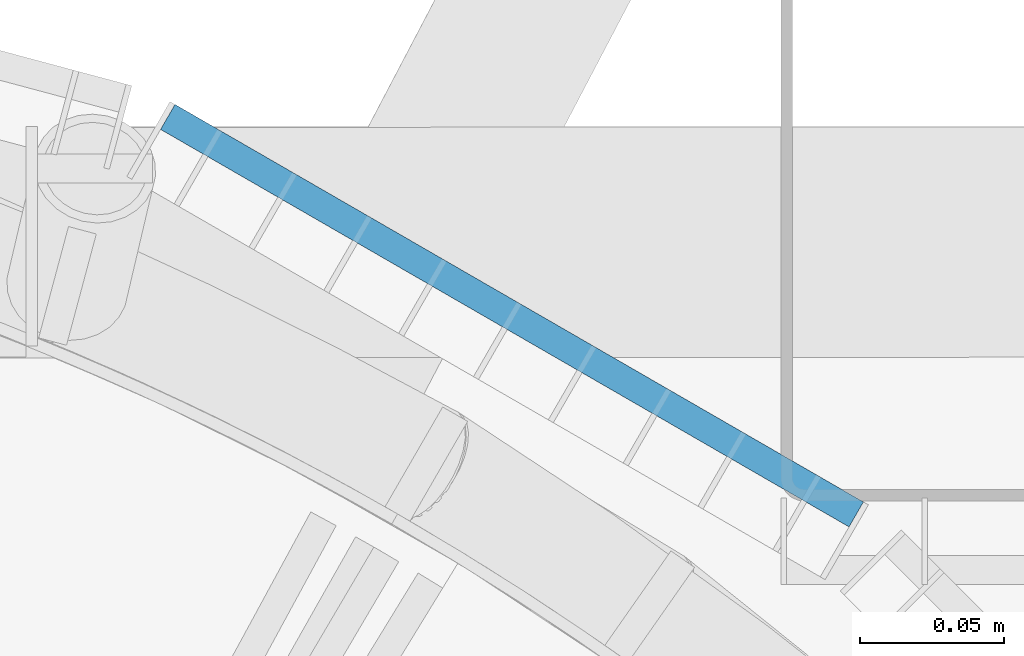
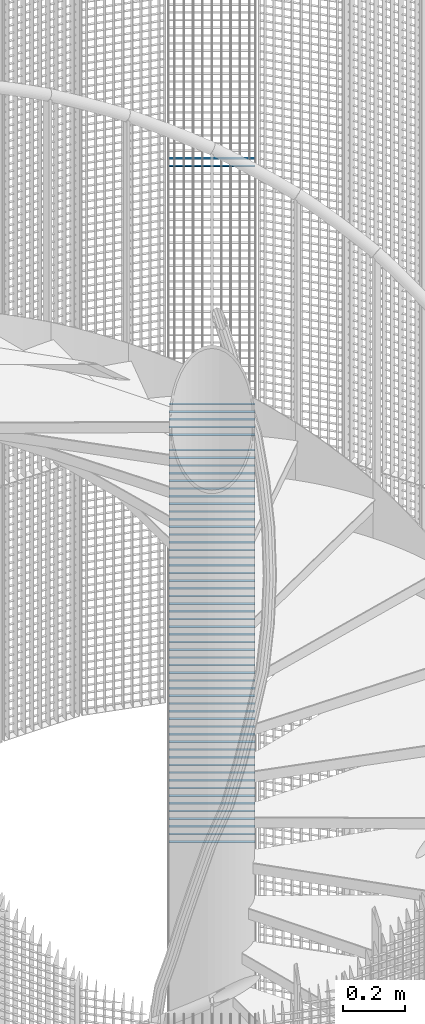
# One storey, part 333 of 1183: 59 beams, 2 elements without a shape of their own.
"""IFC2X3 building model written with IfcOpenShell, lengths in millimetres."""

from ifc_helpers import new_model, si_unit, frame, origin_with_axes, origin_2d_with_axis, place, context, subcontext, project, spatial, rectangle, extrude, material, type_object, element, aggregate, save


model = new_model("IFC2X3")

# Units and contexts
model_context = context("Model", 3, precision=1e-05, world=origin_with_axes())
body_context = subcontext(model_context, "Body", "Model", "MODEL_VIEW")
ifc_project = project(units=[si_unit("LENGTHUNIT", "METRE", prefix="MILLI"), si_unit("AREAUNIT", "SQUARE_METRE"), si_unit("VOLUMEUNIT", "CUBIC_METRE"), si_unit("MASSUNIT", "GRAM", prefix="KILO"), si_unit("TIMEUNIT", "SECOND"), si_unit("PLANEANGLEUNIT", "RADIAN"), si_unit("SOLIDANGLEUNIT", "STERADIAN"), si_unit("THERMODYNAMICTEMPERATUREUNIT", "DEGREE_CELSIUS"), si_unit("LUMINOUSINTENSITYUNIT", "LUMEN")], contexts=[model_context])

# Site, building, storey
site_placement = place(None, origin_with_axes())
site = spatial("IfcSite", under=ifc_project, at=site_placement, Name="Undefined", CompositionType="ELEMENT")
building_placement = place(site_placement, origin_with_axes())
building = spatial("IfcBuilding", under=site, at=building_placement, Name="Undefined", CompositionType="ELEMENT")
storey_placement = place(building_placement, origin_with_axes())
storey = spatial("IfcBuildingStorey", under=building, at=storey_placement, Name="Undefined", CompositionType="ELEMENT", Elevation=0.0)

# Assembly, beams
assembly_1_placement = place(storey_placement, origin_with_axes())
assembly_1 = element("IfcElementAssembly", 1, at=assembly_1_placement, inside=storey, Name="BORDURE", AssemblyPlace="NOTDEFINED", PredefinedType="NOTDEFINED")
ifc_material = material(Name="STEEL/S235JR")
beam_type = type_object("IfcBeamType", Name="PL2*10", PredefinedType="NOTDEFINED")
beam_1_placement = place(assembly_1_placement, frame((676.24804453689, 895.30396491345, 3150.0), z_axis=(0.49999999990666, 0.866025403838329, 0.0), x_axis=(-0.866025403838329, 0.499999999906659, 0.0)))
beam_1 = element("IfcBeam", 2, at=beam_1_placement, type_object=beam_type, material=ifc_material, Name="ENTRETOISE", context=body_context, shape_type="SweptSolid", body=[
    extrude(rectangle(XDim=2.0, YDim=10.0, at=origin_2d_with_axis()), frame((275.999999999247, 9.09494701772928e-13, 1.53210777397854e-14), z_axis=(-1.0, 0.0, 0.0), x_axis=(0.0, -1.0, 0.0)), (0.0, 0.0, 1.0), 276.0),
])
beam_2_placement = place(assembly_1_placement, frame((676.24804453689, 895.30396491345, 3120.0), z_axis=(0.49999999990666, 0.866025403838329, 0.0), x_axis=(-0.866025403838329, 0.499999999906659, 0.0)))
beam_2 = element("IfcBeam", 3, at=beam_2_placement, type_object=beam_type, material=ifc_material, Name="ENTRETOISE", context=body_context, shape_type="SweptSolid", body=[
    extrude(rectangle(XDim=2.0, YDim=10.0, at=origin_2d_with_axis()), frame((275.999999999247, 9.09494701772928e-13, 1.53210777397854e-14), z_axis=(-1.0, 0.0, 0.0), x_axis=(0.0, -1.0, 0.0)), (0.0, 0.0, 1.0), 276.0),
])
beam_3_placement = place(assembly_1_placement, frame((676.248044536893, 895.303964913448, 4080.0), z_axis=(0.49999999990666, 0.866025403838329, 0.0), x_axis=(-0.866025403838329, 0.499999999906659, 0.0)))
beam_3 = element("IfcBeam", 4, at=beam_3_placement, type_object=beam_type, material=ifc_material, Name="ENTRETOISE", context=body_context, shape_type="SweptSolid", body=[
    extrude(rectangle(XDim=2.0, YDim=10.0, at=origin_2d_with_axis()), frame((275.999999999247, 9.09494701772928e-13, 1.53210777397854e-14), z_axis=(-1.0, 0.0, 0.0), x_axis=(0.0, -1.0, 0.0)), (0.0, 0.0, 1.0), 276.0),
])
beam_4_placement = place(assembly_1_placement, frame((676.24804453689, 895.30396491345, 3090.0), z_axis=(0.49999999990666, 0.866025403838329, 0.0), x_axis=(-0.866025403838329, 0.499999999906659, 0.0)))
beam_4 = element("IfcBeam", 5, at=beam_4_placement, type_object=beam_type, material=ifc_material, Name="ENTRETOISE", context=body_context, shape_type="SweptSolid", body=[
    extrude(rectangle(XDim=2.0, YDim=10.0, at=origin_2d_with_axis()), frame((275.999999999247, 9.09494701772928e-13, 1.53210777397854e-14), z_axis=(-1.0, 0.0, 0.0), x_axis=(0.0, -1.0, 0.0)), (0.0, 0.0, 1.0), 276.0),
])
beam_5_placement = place(assembly_1_placement, frame((676.24804453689, 895.30396491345, 3060.0), z_axis=(0.49999999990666, 0.866025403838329, 0.0), x_axis=(-0.866025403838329, 0.499999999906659, 0.0)))
beam_5 = element("IfcBeam", 6, at=beam_5_placement, type_object=beam_type, material=ifc_material, Name="ENTRETOISE", context=body_context, shape_type="SweptSolid", body=[
    extrude(rectangle(XDim=2.0, YDim=10.0, at=origin_2d_with_axis()), frame((275.999999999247, 9.09494701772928e-13, 1.53210777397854e-14), z_axis=(-1.0, 0.0, 0.0), x_axis=(0.0, -1.0, 0.0)), (0.0, 0.0, 1.0), 276.0),
])
beam_6_placement = place(assembly_1_placement, frame((676.248044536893, 895.303964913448, 4110.0), z_axis=(0.49999999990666, 0.866025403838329, 0.0), x_axis=(-0.866025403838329, 0.499999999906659, 0.0)))
beam_6 = element("IfcBeam", 7, at=beam_6_placement, type_object=beam_type, material=ifc_material, Name="ENTRETOISE", context=body_context, shape_type="SweptSolid", body=[
    extrude(rectangle(XDim=2.0, YDim=10.0, at=origin_2d_with_axis()), frame((275.999999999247, 9.09494701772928e-13, 1.53210777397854e-14), z_axis=(-1.0, 0.0, 0.0), x_axis=(0.0, -1.0, 0.0)), (0.0, 0.0, 1.0), 276.0),
])
beam_7_placement = place(assembly_1_placement, frame((676.248044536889, 895.30396491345, 3030.0), z_axis=(0.49999999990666, 0.866025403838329, 0.0), x_axis=(-0.866025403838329, 0.499999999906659, 0.0)))
beam_7 = element("IfcBeam", 8, at=beam_7_placement, type_object=beam_type, material=ifc_material, Name="ENTRETOISE", context=body_context, shape_type="SweptSolid", body=[
    extrude(rectangle(XDim=2.0, YDim=10.0, at=origin_2d_with_axis()), frame((275.999999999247, 9.09494701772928e-13, 1.53210777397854e-14), z_axis=(-1.0, 0.0, 0.0), x_axis=(0.0, -1.0, 0.0)), (0.0, 0.0, 1.0), 276.0),
])
aggregate(assembly_1, [beam_1, beam_2, beam_3, beam_4, beam_5, beam_6, beam_7])

assembly_2_placement = place(storey_placement, origin_with_axes())
assembly_2 = element("IfcElementAssembly", 9, at=assembly_2_placement, inside=storey, Name="BORDURE", AssemblyPlace="NOTDEFINED", PredefinedType="NOTDEFINED")
beam_8_placement = place(assembly_2_placement, frame((676.248044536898, 895.303964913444, 2970.0), z_axis=(0.49999999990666, 0.866025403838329, 0.0), x_axis=(-0.866025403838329, 0.499999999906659, 0.0)))
beam_8 = element("IfcBeam", 10, at=beam_8_placement, type_object=beam_type, material=ifc_material, Name="ENTRETOISE", context=body_context, shape_type="SweptSolid", body=[
    extrude(rectangle(XDim=2.0, YDim=10.0, at=origin_2d_with_axis()), frame((275.999999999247, 9.09494701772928e-13, 1.53210777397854e-14), z_axis=(-1.0, 0.0, 0.0), x_axis=(0.0, -1.0, 0.0)), (0.0, 0.0, 1.0), 276.0),
])
beam_9_placement = place(assembly_2_placement, frame((676.248044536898, 895.303964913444, 2940.0), z_axis=(0.49999999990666, 0.866025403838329, 0.0), x_axis=(-0.866025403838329, 0.499999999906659, 0.0)))
beam_9 = element("IfcBeam", 11, at=beam_9_placement, type_object=beam_type, material=ifc_material, Name="ENTRETOISE", context=body_context, shape_type="SweptSolid", body=[
    extrude(rectangle(XDim=2.0, YDim=10.0, at=origin_2d_with_axis()), frame((275.999999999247, 9.09494701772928e-13, 1.53210777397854e-14), z_axis=(-1.0, 0.0, 0.0), x_axis=(0.0, -1.0, 0.0)), (0.0, 0.0, 1.0), 276.0),
])
beam_10_placement = place(assembly_2_placement, frame((676.248044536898, 895.303964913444, 2910.0), z_axis=(0.49999999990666, 0.866025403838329, 0.0), x_axis=(-0.866025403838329, 0.499999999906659, 0.0)))
beam_10 = element("IfcBeam", 12, at=beam_10_placement, type_object=beam_type, material=ifc_material, Name="ENTRETOISE", context=body_context, shape_type="SweptSolid", body=[
    extrude(rectangle(XDim=2.0, YDim=10.0, at=origin_2d_with_axis()), frame((275.999999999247, 9.09494701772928e-13, 1.53210777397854e-14), z_axis=(-1.0, 0.0, 0.0), x_axis=(0.0, -1.0, 0.0)), (0.0, 0.0, 1.0), 276.0),
])
beam_11_placement = place(assembly_2_placement, frame((676.248044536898, 895.303964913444, 2880.0), z_axis=(0.49999999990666, 0.866025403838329, 0.0), x_axis=(-0.866025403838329, 0.499999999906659, 0.0)))
beam_11 = element("IfcBeam", 13, at=beam_11_placement, type_object=beam_type, material=ifc_material, Name="ENTRETOISE", context=body_context, shape_type="SweptSolid", body=[
    extrude(rectangle(XDim=2.0, YDim=10.0, at=origin_2d_with_axis()), frame((275.999999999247, 9.09494701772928e-13, 1.53210777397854e-14), z_axis=(-1.0, 0.0, 0.0), x_axis=(0.0, -1.0, 0.0)), (0.0, 0.0, 1.0), 276.0),
])
beam_12_placement = place(assembly_2_placement, frame((676.248044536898, 895.303964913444, 2850.0), z_axis=(0.49999999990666, 0.866025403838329, 0.0), x_axis=(-0.866025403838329, 0.499999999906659, 0.0)))
beam_12 = element("IfcBeam", 14, at=beam_12_placement, type_object=beam_type, material=ifc_material, Name="ENTRETOISE", context=body_context, shape_type="SweptSolid", body=[
    extrude(rectangle(XDim=2.0, YDim=10.0, at=origin_2d_with_axis()), frame((275.999999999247, 9.09494701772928e-13, 1.53210777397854e-14), z_axis=(-1.0, 0.0, 0.0), x_axis=(0.0, -1.0, 0.0)), (0.0, 0.0, 1.0), 276.0),
])
beam_13_placement = place(assembly_2_placement, frame((676.248044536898, 895.303964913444, 2820.0), z_axis=(0.49999999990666, 0.866025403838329, 0.0), x_axis=(-0.866025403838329, 0.499999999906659, 0.0)))
beam_13 = element("IfcBeam", 15, at=beam_13_placement, type_object=beam_type, material=ifc_material, Name="ENTRETOISE", context=body_context, shape_type="SweptSolid", body=[
    extrude(rectangle(XDim=2.0, YDim=10.0, at=origin_2d_with_axis()), frame((275.999999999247, 9.09494701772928e-13, 1.53210777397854e-14), z_axis=(-1.0, 0.0, 0.0), x_axis=(0.0, -1.0, 0.0)), (0.0, 0.0, 1.0), 276.0),
])
beam_14_placement = place(assembly_2_placement, frame((676.248044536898, 895.303964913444, 2790.0), z_axis=(0.49999999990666, 0.866025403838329, 0.0), x_axis=(-0.866025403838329, 0.499999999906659, 0.0)))
beam_14 = element("IfcBeam", 16, at=beam_14_placement, type_object=beam_type, material=ifc_material, Name="ENTRETOISE", context=body_context, shape_type="SweptSolid", body=[
    extrude(rectangle(XDim=2.0, YDim=10.0, at=origin_2d_with_axis()), frame((275.999999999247, 9.09494701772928e-13, 1.53210777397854e-14), z_axis=(-1.0, 0.0, 0.0), x_axis=(0.0, -1.0, 0.0)), (0.0, 0.0, 1.0), 276.0),
])
beam_15_placement = place(assembly_2_placement, frame((676.248044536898, 895.303964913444, 2760.0), z_axis=(0.49999999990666, 0.866025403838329, 0.0), x_axis=(-0.866025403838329, 0.499999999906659, 0.0)))
beam_15 = element("IfcBeam", 17, at=beam_15_placement, type_object=beam_type, material=ifc_material, Name="ENTRETOISE", context=body_context, shape_type="SweptSolid", body=[
    extrude(rectangle(XDim=2.0, YDim=10.0, at=origin_2d_with_axis()), frame((275.999999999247, 9.09494701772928e-13, 1.53210777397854e-14), z_axis=(-1.0, 0.0, 0.0), x_axis=(0.0, -1.0, 0.0)), (0.0, 0.0, 1.0), 276.0),
])
beam_16_placement = place(assembly_2_placement, frame((676.248044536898, 895.303964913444, 2730.0), z_axis=(0.49999999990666, 0.866025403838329, 0.0), x_axis=(-0.866025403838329, 0.499999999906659, 0.0)))
beam_16 = element("IfcBeam", 18, at=beam_16_placement, type_object=beam_type, material=ifc_material, Name="ENTRETOISE", context=body_context, shape_type="SweptSolid", body=[
    extrude(rectangle(XDim=2.0, YDim=10.0, at=origin_2d_with_axis()), frame((275.999999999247, 9.09494701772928e-13, 1.53210777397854e-14), z_axis=(-1.0, 0.0, 0.0), x_axis=(0.0, -1.0, 0.0)), (0.0, 0.0, 1.0), 276.0),
])
beam_17_placement = place(assembly_2_placement, frame((676.248044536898, 895.303964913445, 2700.0), z_axis=(0.49999999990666, 0.866025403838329, 0.0), x_axis=(-0.866025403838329, 0.499999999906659, 0.0)))
beam_17 = element("IfcBeam", 19, at=beam_17_placement, type_object=beam_type, material=ifc_material, Name="ENTRETOISE", context=body_context, shape_type="SweptSolid", body=[
    extrude(rectangle(XDim=2.0, YDim=10.0, at=origin_2d_with_axis()), frame((275.999999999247, 9.09494701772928e-13, 1.53210777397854e-14), z_axis=(-1.0, 0.0, 0.0), x_axis=(0.0, -1.0, 0.0)), (0.0, 0.0, 1.0), 276.0),
])
beam_18_placement = place(assembly_2_placement, frame((676.248044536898, 895.303964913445, 2670.0), z_axis=(0.49999999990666, 0.866025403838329, 0.0), x_axis=(-0.866025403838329, 0.499999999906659, 0.0)))
beam_18 = element("IfcBeam", 20, at=beam_18_placement, type_object=beam_type, material=ifc_material, Name="ENTRETOISE", context=body_context, shape_type="SweptSolid", body=[
    extrude(rectangle(XDim=2.0, YDim=10.0, at=origin_2d_with_axis()), frame((275.999999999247, 9.09494701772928e-13, 1.53210777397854e-14), z_axis=(-1.0, 0.0, 0.0), x_axis=(0.0, -1.0, 0.0)), (0.0, 0.0, 1.0), 276.0),
])
beam_19_placement = place(assembly_2_placement, frame((676.248044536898, 895.303964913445, 2640.0), z_axis=(0.49999999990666, 0.866025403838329, 0.0), x_axis=(-0.866025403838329, 0.499999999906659, 0.0)))
beam_19 = element("IfcBeam", 21, at=beam_19_placement, type_object=beam_type, material=ifc_material, Name="ENTRETOISE", context=body_context, shape_type="SweptSolid", body=[
    extrude(rectangle(XDim=2.0, YDim=10.0, at=origin_2d_with_axis()), frame((275.999999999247, 9.09494701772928e-13, 1.53210777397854e-14), z_axis=(-1.0, 0.0, 0.0), x_axis=(0.0, -1.0, 0.0)), (0.0, 0.0, 1.0), 276.0),
])
beam_20_placement = place(assembly_2_placement, frame((676.248044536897, 895.303964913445, 2610.0), z_axis=(0.49999999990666, 0.866025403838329, 0.0), x_axis=(-0.866025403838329, 0.499999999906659, 0.0)))
beam_20 = element("IfcBeam", 22, at=beam_20_placement, type_object=beam_type, material=ifc_material, Name="ENTRETOISE", context=body_context, shape_type="SweptSolid", body=[
    extrude(rectangle(XDim=2.0, YDim=10.0, at=origin_2d_with_axis()), frame((275.999999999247, 9.09494701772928e-13, 1.53210777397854e-14), z_axis=(-1.0, 0.0, 0.0), x_axis=(0.0, -1.0, 0.0)), (0.0, 0.0, 1.0), 276.0),
])
beam_21_placement = place(assembly_2_placement, frame((676.248044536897, 895.303964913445, 2580.0), z_axis=(0.49999999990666, 0.866025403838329, 0.0), x_axis=(-0.866025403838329, 0.499999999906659, 0.0)))
beam_21 = element("IfcBeam", 23, at=beam_21_placement, type_object=beam_type, material=ifc_material, Name="ENTRETOISE", context=body_context, shape_type="SweptSolid", body=[
    extrude(rectangle(XDim=2.0, YDim=10.0, at=origin_2d_with_axis()), frame((275.999999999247, 9.09494701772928e-13, 1.53210777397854e-14), z_axis=(-1.0, 0.0, 0.0), x_axis=(0.0, -1.0, 0.0)), (0.0, 0.0, 1.0), 276.0),
])
beam_22_placement = place(assembly_2_placement, frame((676.248044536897, 895.303964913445, 2550.0), z_axis=(0.49999999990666, 0.866025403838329, 0.0), x_axis=(-0.866025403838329, 0.499999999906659, 0.0)))
beam_22 = element("IfcBeam", 24, at=beam_22_placement, type_object=beam_type, material=ifc_material, Name="ENTRETOISE", context=body_context, shape_type="SweptSolid", body=[
    extrude(rectangle(XDim=2.0, YDim=10.0, at=origin_2d_with_axis()), frame((275.999999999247, 9.09494701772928e-13, 1.53210777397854e-14), z_axis=(-1.0, 0.0, 0.0), x_axis=(0.0, -1.0, 0.0)), (0.0, 0.0, 1.0), 276.0),
])
beam_23_placement = place(assembly_2_placement, frame((676.248044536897, 895.303964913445, 2520.0), z_axis=(0.49999999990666, 0.866025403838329, 0.0), x_axis=(-0.866025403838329, 0.499999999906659, 0.0)))
beam_23 = element("IfcBeam", 25, at=beam_23_placement, type_object=beam_type, material=ifc_material, Name="ENTRETOISE", context=body_context, shape_type="SweptSolid", body=[
    extrude(rectangle(XDim=2.0, YDim=10.0, at=origin_2d_with_axis()), frame((275.999999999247, 9.09494701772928e-13, 1.53210777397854e-14), z_axis=(-1.0, 0.0, 0.0), x_axis=(0.0, -1.0, 0.0)), (0.0, 0.0, 1.0), 276.0),
])
beam_24_placement = place(assembly_2_placement, frame((676.248044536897, 895.303964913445, 2490.0), z_axis=(0.49999999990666, 0.866025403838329, 0.0), x_axis=(-0.866025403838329, 0.499999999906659, 0.0)))
beam_24 = element("IfcBeam", 26, at=beam_24_placement, type_object=beam_type, material=ifc_material, Name="ENTRETOISE", context=body_context, shape_type="SweptSolid", body=[
    extrude(rectangle(XDim=2.0, YDim=10.0, at=origin_2d_with_axis()), frame((275.999999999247, 9.09494701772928e-13, 1.53210777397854e-14), z_axis=(-1.0, 0.0, 0.0), x_axis=(0.0, -1.0, 0.0)), (0.0, 0.0, 1.0), 276.0),
])
beam_25_placement = place(assembly_2_placement, frame((676.248044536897, 895.303964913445, 2460.0), z_axis=(0.49999999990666, 0.866025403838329, 0.0), x_axis=(-0.866025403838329, 0.499999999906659, 0.0)))
beam_25 = element("IfcBeam", 27, at=beam_25_placement, type_object=beam_type, material=ifc_material, Name="ENTRETOISE", context=body_context, shape_type="SweptSolid", body=[
    extrude(rectangle(XDim=2.0, YDim=10.0, at=origin_2d_with_axis()), frame((275.999999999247, 9.09494701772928e-13, 1.53210777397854e-14), z_axis=(-1.0, 0.0, 0.0), x_axis=(0.0, -1.0, 0.0)), (0.0, 0.0, 1.0), 276.0),
])
beam_26_placement = place(assembly_2_placement, frame((676.248044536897, 895.303964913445, 2430.0), z_axis=(0.49999999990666, 0.866025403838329, 0.0), x_axis=(-0.866025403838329, 0.499999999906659, 0.0)))
beam_26 = element("IfcBeam", 28, at=beam_26_placement, type_object=beam_type, material=ifc_material, Name="ENTRETOISE", context=body_context, shape_type="SweptSolid", body=[
    extrude(rectangle(XDim=2.0, YDim=10.0, at=origin_2d_with_axis()), frame((275.999999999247, 9.09494701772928e-13, 1.53210777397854e-14), z_axis=(-1.0, 0.0, 0.0), x_axis=(0.0, -1.0, 0.0)), (0.0, 0.0, 1.0), 276.0),
])
beam_27_placement = place(assembly_2_placement, frame((676.248044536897, 895.303964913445, 2400.0), z_axis=(0.49999999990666, 0.866025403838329, 0.0), x_axis=(-0.866025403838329, 0.499999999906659, 0.0)))
beam_27 = element("IfcBeam", 29, at=beam_27_placement, type_object=beam_type, material=ifc_material, Name="ENTRETOISE", context=body_context, shape_type="SweptSolid", body=[
    extrude(rectangle(XDim=2.0, YDim=10.0, at=origin_2d_with_axis()), frame((275.999999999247, 9.09494701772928e-13, 1.53210777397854e-14), z_axis=(-1.0, 0.0, 0.0), x_axis=(0.0, -1.0, 0.0)), (0.0, 0.0, 1.0), 276.0),
])
beam_28_placement = place(assembly_2_placement, frame((676.248044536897, 895.303964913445, 2370.0), z_axis=(0.49999999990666, 0.866025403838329, 0.0), x_axis=(-0.866025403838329, 0.499999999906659, 0.0)))
beam_28 = element("IfcBeam", 30, at=beam_28_placement, type_object=beam_type, material=ifc_material, Name="ENTRETOISE", context=body_context, shape_type="SweptSolid", body=[
    extrude(rectangle(XDim=2.0, YDim=10.0, at=origin_2d_with_axis()), frame((275.999999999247, 9.09494701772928e-13, 1.53210777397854e-14), z_axis=(-1.0, 0.0, 0.0), x_axis=(0.0, -1.0, 0.0)), (0.0, 0.0, 1.0), 276.0),
])
beam_29_placement = place(assembly_2_placement, frame((676.248044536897, 895.303964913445, 2340.0), z_axis=(0.49999999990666, 0.866025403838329, 0.0), x_axis=(-0.866025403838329, 0.499999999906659, 0.0)))
beam_29 = element("IfcBeam", 31, at=beam_29_placement, type_object=beam_type, material=ifc_material, Name="ENTRETOISE", context=body_context, shape_type="SweptSolid", body=[
    extrude(rectangle(XDim=2.0, YDim=10.0, at=origin_2d_with_axis()), frame((275.999999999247, 9.09494701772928e-13, 1.53210777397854e-14), z_axis=(-1.0, 0.0, 0.0), x_axis=(0.0, -1.0, 0.0)), (0.0, 0.0, 1.0), 276.0),
])
beam_30_placement = place(assembly_2_placement, frame((676.248044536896, 895.303964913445, 2310.0), z_axis=(0.49999999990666, 0.866025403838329, 0.0), x_axis=(-0.866025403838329, 0.499999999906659, 0.0)))
beam_30 = element("IfcBeam", 32, at=beam_30_placement, type_object=beam_type, material=ifc_material, Name="ENTRETOISE", context=body_context, shape_type="SweptSolid", body=[
    extrude(rectangle(XDim=2.0, YDim=10.0, at=origin_2d_with_axis()), frame((275.999999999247, 9.09494701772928e-13, 1.53210777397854e-14), z_axis=(-1.0, 0.0, 0.0), x_axis=(0.0, -1.0, 0.0)), (0.0, 0.0, 1.0), 276.0),
])
beam_31_placement = place(assembly_2_placement, frame((676.248044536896, 895.303964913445, 2280.0), z_axis=(0.49999999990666, 0.866025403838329, 0.0), x_axis=(-0.866025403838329, 0.499999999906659, 0.0)))
beam_31 = element("IfcBeam", 33, at=beam_31_placement, type_object=beam_type, material=ifc_material, Name="ENTRETOISE", context=body_context, shape_type="SweptSolid", body=[
    extrude(rectangle(XDim=2.0, YDim=10.0, at=origin_2d_with_axis()), frame((275.999999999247, 9.09494701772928e-13, 1.53210777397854e-14), z_axis=(-1.0, 0.0, 0.0), x_axis=(0.0, -1.0, 0.0)), (0.0, 0.0, 1.0), 276.0),
])
beam_32_placement = place(assembly_2_placement, frame((676.248044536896, 895.303964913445, 2250.0), z_axis=(0.49999999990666, 0.866025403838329, 0.0), x_axis=(-0.866025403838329, 0.499999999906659, 0.0)))
beam_32 = element("IfcBeam", 34, at=beam_32_placement, type_object=beam_type, material=ifc_material, Name="ENTRETOISE", context=body_context, shape_type="SweptSolid", body=[
    extrude(rectangle(XDim=2.0, YDim=10.0, at=origin_2d_with_axis()), frame((275.999999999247, 9.09494701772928e-13, 1.53210777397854e-14), z_axis=(-1.0, 0.0, 0.0), x_axis=(0.0, -1.0, 0.0)), (0.0, 0.0, 1.0), 276.0),
])
beam_33_placement = place(assembly_2_placement, frame((676.248044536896, 895.303964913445, 2220.0), z_axis=(0.49999999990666, 0.866025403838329, 0.0), x_axis=(-0.866025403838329, 0.499999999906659, 0.0)))
beam_33 = element("IfcBeam", 35, at=beam_33_placement, type_object=beam_type, material=ifc_material, Name="ENTRETOISE", context=body_context, shape_type="SweptSolid", body=[
    extrude(rectangle(XDim=2.0, YDim=10.0, at=origin_2d_with_axis()), frame((275.999999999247, 9.09494701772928e-13, 1.53210777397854e-14), z_axis=(-1.0, 0.0, 0.0), x_axis=(0.0, -1.0, 0.0)), (0.0, 0.0, 1.0), 276.0),
])
beam_34_placement = place(assembly_2_placement, frame((676.248044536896, 895.303964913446, 2190.0), z_axis=(0.49999999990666, 0.866025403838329, 0.0), x_axis=(-0.866025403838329, 0.499999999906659, 0.0)))
beam_34 = element("IfcBeam", 36, at=beam_34_placement, type_object=beam_type, material=ifc_material, Name="ENTRETOISE", context=body_context, shape_type="SweptSolid", body=[
    extrude(rectangle(XDim=2.0, YDim=10.0, at=origin_2d_with_axis()), frame((275.999999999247, 9.09494701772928e-13, 1.53210777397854e-14), z_axis=(-1.0, 0.0, 0.0), x_axis=(0.0, -1.0, 0.0)), (0.0, 0.0, 1.0), 276.0),
])
beam_35_placement = place(assembly_2_placement, frame((676.248044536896, 895.303964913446, 2160.0), z_axis=(0.49999999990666, 0.866025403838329, 0.0), x_axis=(-0.866025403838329, 0.499999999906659, 0.0)))
beam_35 = element("IfcBeam", 37, at=beam_35_placement, type_object=beam_type, material=ifc_material, Name="ENTRETOISE", context=body_context, shape_type="SweptSolid", body=[
    extrude(rectangle(XDim=2.0, YDim=10.0, at=origin_2d_with_axis()), frame((275.999999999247, 9.09494701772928e-13, 1.53210777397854e-14), z_axis=(-1.0, 0.0, 0.0), x_axis=(0.0, -1.0, 0.0)), (0.0, 0.0, 1.0), 276.0),
])
beam_36_placement = place(assembly_2_placement, frame((676.248044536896, 895.303964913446, 2130.0), z_axis=(0.49999999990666, 0.866025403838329, 0.0), x_axis=(-0.866025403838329, 0.499999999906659, 0.0)))
beam_36 = element("IfcBeam", 38, at=beam_36_placement, type_object=beam_type, material=ifc_material, Name="ENTRETOISE", context=body_context, shape_type="SweptSolid", body=[
    extrude(rectangle(XDim=2.0, YDim=10.0, at=origin_2d_with_axis()), frame((275.999999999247, 9.09494701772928e-13, 1.53210777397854e-14), z_axis=(-1.0, 0.0, 0.0), x_axis=(0.0, -1.0, 0.0)), (0.0, 0.0, 1.0), 276.0),
])
beam_37_placement = place(assembly_2_placement, frame((676.248044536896, 895.303964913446, 2100.0), z_axis=(0.49999999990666, 0.866025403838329, 0.0), x_axis=(-0.866025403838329, 0.499999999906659, 0.0)))
beam_37 = element("IfcBeam", 39, at=beam_37_placement, type_object=beam_type, material=ifc_material, Name="ENTRETOISE", context=body_context, shape_type="SweptSolid", body=[
    extrude(rectangle(XDim=2.0, YDim=10.0, at=origin_2d_with_axis()), frame((275.999999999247, 9.09494701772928e-13, 1.53210777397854e-14), z_axis=(-1.0, 0.0, 0.0), x_axis=(0.0, -1.0, 0.0)), (0.0, 0.0, 1.0), 276.0),
])
beam_38_placement = place(assembly_2_placement, frame((676.248044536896, 895.303964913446, 2070.0), z_axis=(0.49999999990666, 0.866025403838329, 0.0), x_axis=(-0.866025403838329, 0.499999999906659, 0.0)))
beam_38 = element("IfcBeam", 40, at=beam_38_placement, type_object=beam_type, material=ifc_material, Name="ENTRETOISE", context=body_context, shape_type="SweptSolid", body=[
    extrude(rectangle(XDim=2.0, YDim=10.0, at=origin_2d_with_axis()), frame((275.999999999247, 9.09494701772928e-13, 1.53210777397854e-14), z_axis=(-1.0, 0.0, 0.0), x_axis=(0.0, -1.0, 0.0)), (0.0, 0.0, 1.0), 276.0),
])
beam_39_placement = place(assembly_2_placement, frame((676.248044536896, 895.303964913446, 2040.0), z_axis=(0.49999999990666, 0.866025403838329, 0.0), x_axis=(-0.866025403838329, 0.499999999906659, 0.0)))
beam_39 = element("IfcBeam", 41, at=beam_39_placement, type_object=beam_type, material=ifc_material, Name="ENTRETOISE", context=body_context, shape_type="SweptSolid", body=[
    extrude(rectangle(XDim=2.0, YDim=10.0, at=origin_2d_with_axis()), frame((275.999999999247, 9.09494701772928e-13, 1.53210777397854e-14), z_axis=(-1.0, 0.0, 0.0), x_axis=(0.0, -1.0, 0.0)), (0.0, 0.0, 1.0), 276.0),
])
beam_40_placement = place(assembly_2_placement, frame((676.248044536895, 895.303964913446, 2010.0), z_axis=(0.49999999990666, 0.866025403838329, 0.0), x_axis=(-0.866025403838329, 0.499999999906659, 0.0)))
beam_40 = element("IfcBeam", 42, at=beam_40_placement, type_object=beam_type, material=ifc_material, Name="ENTRETOISE", context=body_context, shape_type="SweptSolid", body=[
    extrude(rectangle(XDim=2.0, YDim=10.0, at=origin_2d_with_axis()), frame((275.999999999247, 9.09494701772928e-13, 1.53210777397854e-14), z_axis=(-1.0, 0.0, 0.0), x_axis=(0.0, -1.0, 0.0)), (0.0, 0.0, 1.0), 276.0),
])
beam_41_placement = place(assembly_2_placement, frame((676.248044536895, 895.303964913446, 1980.0), z_axis=(0.49999999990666, 0.866025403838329, 0.0), x_axis=(-0.866025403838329, 0.499999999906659, 0.0)))
beam_41 = element("IfcBeam", 43, at=beam_41_placement, type_object=beam_type, material=ifc_material, Name="ENTRETOISE", context=body_context, shape_type="SweptSolid", body=[
    extrude(rectangle(XDim=2.0, YDim=10.0, at=origin_2d_with_axis()), frame((275.999999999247, 9.09494701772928e-13, 1.53210777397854e-14), z_axis=(-1.0, 0.0, 0.0), x_axis=(0.0, -1.0, 0.0)), (0.0, 0.0, 1.0), 276.0),
])
beam_42_placement = place(assembly_2_placement, frame((676.248044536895, 895.303964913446, 1950.0), z_axis=(0.49999999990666, 0.866025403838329, 0.0), x_axis=(-0.866025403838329, 0.499999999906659, 0.0)))
beam_42 = element("IfcBeam", 44, at=beam_42_placement, type_object=beam_type, material=ifc_material, Name="ENTRETOISE", context=body_context, shape_type="SweptSolid", body=[
    extrude(rectangle(XDim=2.0, YDim=10.0, at=origin_2d_with_axis()), frame((275.999999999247, 9.09494701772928e-13, 1.53210777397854e-14), z_axis=(-1.0, 0.0, 0.0), x_axis=(0.0, -1.0, 0.0)), (0.0, 0.0, 1.0), 276.0),
])
beam_43_placement = place(assembly_2_placement, frame((676.248044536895, 895.303964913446, 1920.0), z_axis=(0.49999999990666, 0.866025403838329, 0.0), x_axis=(-0.866025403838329, 0.499999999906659, 0.0)))
beam_43 = element("IfcBeam", 45, at=beam_43_placement, type_object=beam_type, material=ifc_material, Name="ENTRETOISE", context=body_context, shape_type="SweptSolid", body=[
    extrude(rectangle(XDim=2.0, YDim=10.0, at=origin_2d_with_axis()), frame((275.999999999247, 9.09494701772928e-13, 1.53210777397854e-14), z_axis=(-1.0, 0.0, 0.0), x_axis=(0.0, -1.0, 0.0)), (0.0, 0.0, 1.0), 276.0),
])
beam_44_placement = place(assembly_2_placement, frame((676.248044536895, 895.303964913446, 1890.0), z_axis=(0.49999999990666, 0.866025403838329, 0.0), x_axis=(-0.866025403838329, 0.499999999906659, 0.0)))
beam_44 = element("IfcBeam", 46, at=beam_44_placement, type_object=beam_type, material=ifc_material, Name="ENTRETOISE", context=body_context, shape_type="SweptSolid", body=[
    extrude(rectangle(XDim=2.0, YDim=10.0, at=origin_2d_with_axis()), frame((275.999999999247, 9.09494701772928e-13, 1.53210777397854e-14), z_axis=(-1.0, 0.0, 0.0), x_axis=(0.0, -1.0, 0.0)), (0.0, 0.0, 1.0), 276.0),
])
beam_45_placement = place(assembly_2_placement, frame((676.248044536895, 895.303964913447, 1860.0), z_axis=(0.49999999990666, 0.866025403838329, 0.0), x_axis=(-0.866025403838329, 0.499999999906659, 0.0)))
beam_45 = element("IfcBeam", 47, at=beam_45_placement, type_object=beam_type, material=ifc_material, Name="ENTRETOISE", context=body_context, shape_type="SweptSolid", body=[
    extrude(rectangle(XDim=2.0, YDim=10.0, at=origin_2d_with_axis()), frame((275.999999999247, 9.09494701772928e-13, 1.53210777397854e-14), z_axis=(-1.0, 0.0, 0.0), x_axis=(0.0, -1.0, 0.0)), (0.0, 0.0, 1.0), 276.0),
])
beam_46_placement = place(assembly_2_placement, frame((676.248044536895, 895.303964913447, 1830.0), z_axis=(0.49999999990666, 0.866025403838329, 0.0), x_axis=(-0.866025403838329, 0.499999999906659, 0.0)))
beam_46 = element("IfcBeam", 48, at=beam_46_placement, type_object=beam_type, material=ifc_material, Name="ENTRETOISE", context=body_context, shape_type="SweptSolid", body=[
    extrude(rectangle(XDim=2.0, YDim=10.0, at=origin_2d_with_axis()), frame((275.999999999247, 9.09494701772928e-13, 1.53210777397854e-14), z_axis=(-1.0, 0.0, 0.0), x_axis=(0.0, -1.0, 0.0)), (0.0, 0.0, 1.0), 276.0),
])
beam_47_placement = place(assembly_2_placement, frame((676.248044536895, 895.303964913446, 1800.0), z_axis=(0.49999999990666, 0.866025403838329, 0.0), x_axis=(-0.866025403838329, 0.499999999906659, 0.0)))
beam_47 = element("IfcBeam", 49, at=beam_47_placement, type_object=beam_type, material=ifc_material, Name="ENTRETOISE", context=body_context, shape_type="SweptSolid", body=[
    extrude(rectangle(XDim=2.0, YDim=10.0, at=origin_2d_with_axis()), frame((275.999999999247, 9.09494701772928e-13, 1.53210777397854e-14), z_axis=(-1.0, 0.0, 0.0), x_axis=(0.0, -1.0, 0.0)), (0.0, 0.0, 1.0), 276.0),
])
beam_48_placement = place(assembly_2_placement, frame((676.248044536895, 895.303964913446, 1770.0), z_axis=(0.49999999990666, 0.866025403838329, 0.0), x_axis=(-0.866025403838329, 0.499999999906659, 0.0)))
beam_48 = element("IfcBeam", 50, at=beam_48_placement, type_object=beam_type, material=ifc_material, Name="ENTRETOISE", context=body_context, shape_type="SweptSolid", body=[
    extrude(rectangle(XDim=2.0, YDim=10.0, at=origin_2d_with_axis()), frame((275.999999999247, 9.09494701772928e-13, 1.53210777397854e-14), z_axis=(-1.0, 0.0, 0.0), x_axis=(0.0, -1.0, 0.0)), (0.0, 0.0, 1.0), 276.0),
])
beam_49_placement = place(assembly_2_placement, frame((676.248044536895, 895.303964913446, 1740.0), z_axis=(0.49999999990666, 0.866025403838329, 0.0), x_axis=(-0.866025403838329, 0.499999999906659, 0.0)))
beam_49 = element("IfcBeam", 51, at=beam_49_placement, type_object=beam_type, material=ifc_material, Name="ENTRETOISE", context=body_context, shape_type="SweptSolid", body=[
    extrude(rectangle(XDim=2.0, YDim=10.0, at=origin_2d_with_axis()), frame((275.999999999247, 9.09494701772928e-13, 1.53210777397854e-14), z_axis=(-1.0, 0.0, 0.0), x_axis=(0.0, -1.0, 0.0)), (0.0, 0.0, 1.0), 276.0),
])
beam_50_placement = place(assembly_2_placement, frame((676.248044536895, 895.303964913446, 1710.0), z_axis=(0.49999999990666, 0.866025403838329, 0.0), x_axis=(-0.866025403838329, 0.499999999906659, 0.0)))
beam_50 = element("IfcBeam", 52, at=beam_50_placement, type_object=beam_type, material=ifc_material, Name="ENTRETOISE", context=body_context, shape_type="SweptSolid", body=[
    extrude(rectangle(XDim=2.0, YDim=10.0, at=origin_2d_with_axis()), frame((275.999999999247, 9.09494701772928e-13, 1.53210777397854e-14), z_axis=(-1.0, 0.0, 0.0), x_axis=(0.0, -1.0, 0.0)), (0.0, 0.0, 1.0), 276.0),
])
beam_51_placement = place(assembly_2_placement, frame((676.248044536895, 895.303964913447, 1680.0), z_axis=(0.49999999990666, 0.866025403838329, 0.0), x_axis=(-0.866025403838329, 0.499999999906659, 0.0)))
beam_51 = element("IfcBeam", 53, at=beam_51_placement, type_object=beam_type, material=ifc_material, Name="ENTRETOISE", context=body_context, shape_type="SweptSolid", body=[
    extrude(rectangle(XDim=2.0, YDim=10.0, at=origin_2d_with_axis()), frame((275.999999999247, 9.09494701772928e-13, 1.53210777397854e-14), z_axis=(-1.0, 0.0, 0.0), x_axis=(0.0, -1.0, 0.0)), (0.0, 0.0, 1.0), 276.0),
])
beam_52_placement = place(assembly_2_placement, frame((676.248044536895, 895.303964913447, 1650.0), z_axis=(0.49999999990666, 0.866025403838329, 0.0), x_axis=(-0.866025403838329, 0.499999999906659, 0.0)))
beam_52 = element("IfcBeam", 54, at=beam_52_placement, type_object=beam_type, material=ifc_material, Name="ENTRETOISE", context=body_context, shape_type="SweptSolid", body=[
    extrude(rectangle(XDim=2.0, YDim=10.0, at=origin_2d_with_axis()), frame((275.999999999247, 9.09494701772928e-13, 1.53210777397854e-14), z_axis=(-1.0, 0.0, 0.0), x_axis=(0.0, -1.0, 0.0)), (0.0, 0.0, 1.0), 276.0),
])
beam_53_placement = place(assembly_2_placement, frame((676.248044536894, 895.303964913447, 1620.0), z_axis=(0.49999999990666, 0.866025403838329, 0.0), x_axis=(-0.866025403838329, 0.499999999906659, 0.0)))
beam_53 = element("IfcBeam", 55, at=beam_53_placement, type_object=beam_type, material=ifc_material, Name="ENTRETOISE", context=body_context, shape_type="SweptSolid", body=[
    extrude(rectangle(XDim=2.0, YDim=10.0, at=origin_2d_with_axis()), frame((275.999999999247, 9.09494701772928e-13, 1.53210777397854e-14), z_axis=(-1.0, 0.0, 0.0), x_axis=(0.0, -1.0, 0.0)), (0.0, 0.0, 1.0), 276.0),
])
beam_54_placement = place(assembly_2_placement, frame((676.248044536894, 895.303964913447, 1590.0), z_axis=(0.49999999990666, 0.866025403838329, 0.0), x_axis=(-0.866025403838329, 0.499999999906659, 0.0)))
beam_54 = element("IfcBeam", 56, at=beam_54_placement, type_object=beam_type, material=ifc_material, Name="ENTRETOISE", context=body_context, shape_type="SweptSolid", body=[
    extrude(rectangle(XDim=2.0, YDim=10.0, at=origin_2d_with_axis()), frame((275.999999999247, 9.09494701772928e-13, 1.53210777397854e-14), z_axis=(-1.0, 0.0, 0.0), x_axis=(0.0, -1.0, 0.0)), (0.0, 0.0, 1.0), 276.0),
])
beam_55_placement = place(assembly_2_placement, frame((676.248044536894, 895.303964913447, 1560.0), z_axis=(0.49999999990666, 0.866025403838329, 0.0), x_axis=(-0.866025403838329, 0.499999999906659, 0.0)))
beam_55 = element("IfcBeam", 57, at=beam_55_placement, type_object=beam_type, material=ifc_material, Name="ENTRETOISE", context=body_context, shape_type="SweptSolid", body=[
    extrude(rectangle(XDim=2.0, YDim=10.0, at=origin_2d_with_axis()), frame((275.999999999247, 9.09494701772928e-13, 1.53210777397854e-14), z_axis=(-1.0, 0.0, 0.0), x_axis=(0.0, -1.0, 0.0)), (0.0, 0.0, 1.0), 276.0),
])
beam_56_placement = place(assembly_2_placement, frame((676.248044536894, 895.303964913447, 1530.0), z_axis=(0.49999999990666, 0.866025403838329, 0.0), x_axis=(-0.866025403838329, 0.499999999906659, 0.0)))
beam_56 = element("IfcBeam", 58, at=beam_56_placement, type_object=beam_type, material=ifc_material, Name="ENTRETOISE", context=body_context, shape_type="SweptSolid", body=[
    extrude(rectangle(XDim=2.0, YDim=10.0, at=origin_2d_with_axis()), frame((275.999999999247, 9.09494701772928e-13, 1.53210777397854e-14), z_axis=(-1.0, 0.0, 0.0), x_axis=(0.0, -1.0, 0.0)), (0.0, 0.0, 1.0), 276.0),
])
beam_57_placement = place(assembly_2_placement, frame((676.248044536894, 895.303964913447, 1500.0), z_axis=(0.49999999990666, 0.866025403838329, 0.0), x_axis=(-0.866025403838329, 0.499999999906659, 0.0)))
beam_57 = element("IfcBeam", 59, at=beam_57_placement, type_object=beam_type, material=ifc_material, Name="ENTRETOISE", context=body_context, shape_type="SweptSolid", body=[
    extrude(rectangle(XDim=2.0, YDim=10.0, at=origin_2d_with_axis()), frame((275.999999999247, 9.09494701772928e-13, 1.53210777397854e-14), z_axis=(-1.0, 0.0, 0.0), x_axis=(0.0, -1.0, 0.0)), (0.0, 0.0, 1.0), 276.0),
])
beam_58_placement = place(assembly_2_placement, frame((676.248044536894, 895.303964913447, 1470.0), z_axis=(0.49999999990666, 0.866025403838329, 0.0), x_axis=(-0.866025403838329, 0.499999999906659, 0.0)))
beam_58 = element("IfcBeam", 60, at=beam_58_placement, type_object=beam_type, material=ifc_material, Name="ENTRETOISE", context=body_context, shape_type="SweptSolid", body=[
    extrude(rectangle(XDim=2.0, YDim=10.0, at=origin_2d_with_axis()), frame((275.999999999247, 9.09494701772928e-13, 1.53210777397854e-14), z_axis=(-1.0, 0.0, 0.0), x_axis=(0.0, -1.0, 0.0)), (0.0, 0.0, 1.0), 276.0),
])
beam_59_placement = place(assembly_2_placement, frame((676.248044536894, 895.303964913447, 1440.0), z_axis=(0.49999999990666, 0.866025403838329, 0.0), x_axis=(-0.866025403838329, 0.499999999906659, 0.0)))
beam_59 = element("IfcBeam", 61, at=beam_59_placement, type_object=beam_type, material=ifc_material, Name="ENTRETOISE", context=body_context, shape_type="SweptSolid", body=[
    extrude(rectangle(XDim=2.0, YDim=10.0, at=origin_2d_with_axis()), frame((275.999999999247, 9.09494701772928e-13, 1.53210777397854e-14), z_axis=(-1.0, 0.0, 0.0), x_axis=(0.0, -1.0, 0.0)), (0.0, 0.0, 1.0), 276.0),
])
aggregate(assembly_2, [beam_8, beam_9, beam_10, beam_11, beam_12, beam_13, beam_14, beam_15, beam_16, beam_17, beam_18, beam_19, beam_20, beam_21, beam_22, beam_23, beam_24, beam_25, beam_26, beam_27, beam_28, beam_29, beam_30, beam_31, beam_32, beam_33, beam_34, beam_35, beam_36, beam_37, beam_38, beam_39, beam_40, beam_41, beam_42, beam_43, beam_44, beam_45, beam_46, beam_47, beam_48, beam_49, beam_50, beam_51, beam_52, beam_53, beam_54, beam_55, beam_56, beam_57, beam_58, beam_59])

save(model, "model.ifc")
